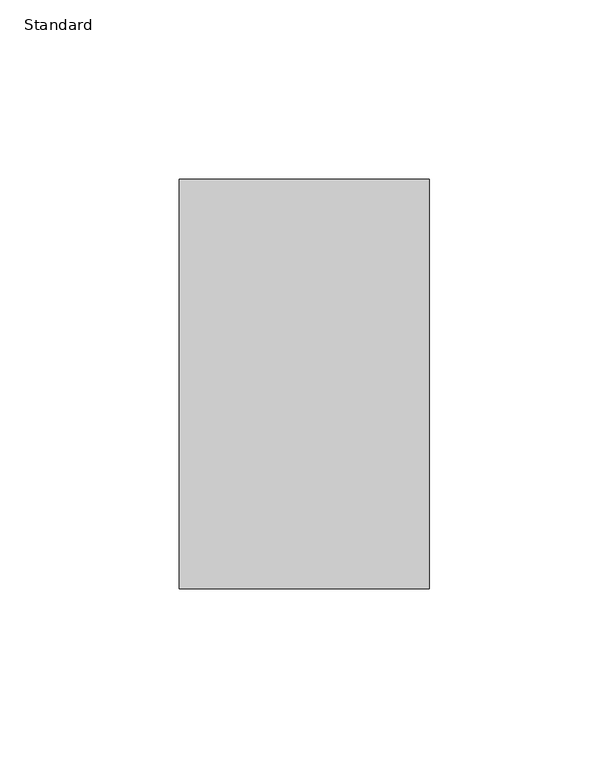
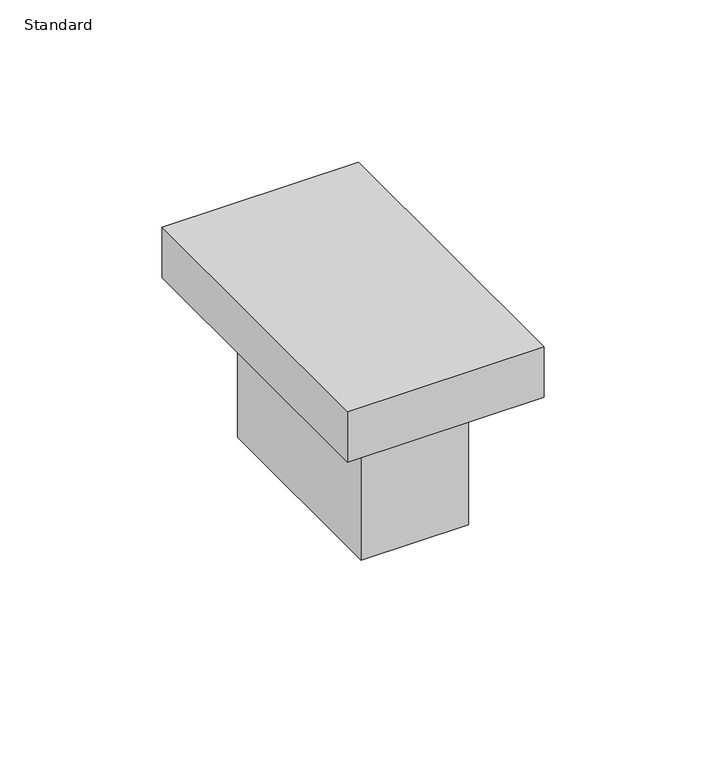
"""IFC4 building model written with IfcOpenShell, lengths in millimetres: alarm geometry, OMAHA - Manual Pull Station : Standard."""

from ifc_helpers import new_model, si_unit, frame, origin, origin_with_axes, place, context, project, spatial, polyline, outline, extrude, source, transform, mapped, element, save


def standard_fa99bdc8(model_context):
    return source(origin(), model_context, "Body", "SweptSolid", [
        extrude(outline(polyline([(19.05, 38.1), (19.05, -38.1), (-19.05, -38.1), (-19.05, 38.1), (19.05, 38.1)])), frame((0.0, 0.0, -53.975), z_axis=(0.0, 0.0, 1.0), x_axis=(1.0, 0.0, 0.0)), (0.0, 0.0, 1.0), 53.975),
        extrude(outline(polyline([(34.925, 57.15), (34.925, -57.15), (-34.925, -57.15), (-34.925, 57.15), (34.925, 57.15)])), origin_with_axes(), (0.0, 0.0, 1.0), 19.05),
    ])


if __name__ == "__main__":
    model = new_model("IFC4")
    model_context = context("Model", 3, world=origin())
    ifc_project = project(units=[si_unit("LENGTHUNIT", "METRE", prefix="MILLI")], contexts=[model_context])
    site = spatial("IfcSite", under=ifc_project)
    building = spatial("IfcBuilding", under=site)
    placement = place(None, origin())
    standard_shape = standard_fa99bdc8(model_context)
    element("IfcAlarm", 1, ObjectType="OMAHA - Manual Pull Station : Standard", at=placement, inside=building, context=model_context, shape_type="MappedRepresentation", body=[
        mapped(standard_shape, transform((0.0, 0.0, 0.0), x_axis=(1.0, 0.0, 0.0), y_axis=(0.0, 1.0, 0.0), z_axis=(0.0, 0.0, 1.0))),
    ])
    save(model, "model.ifc")
